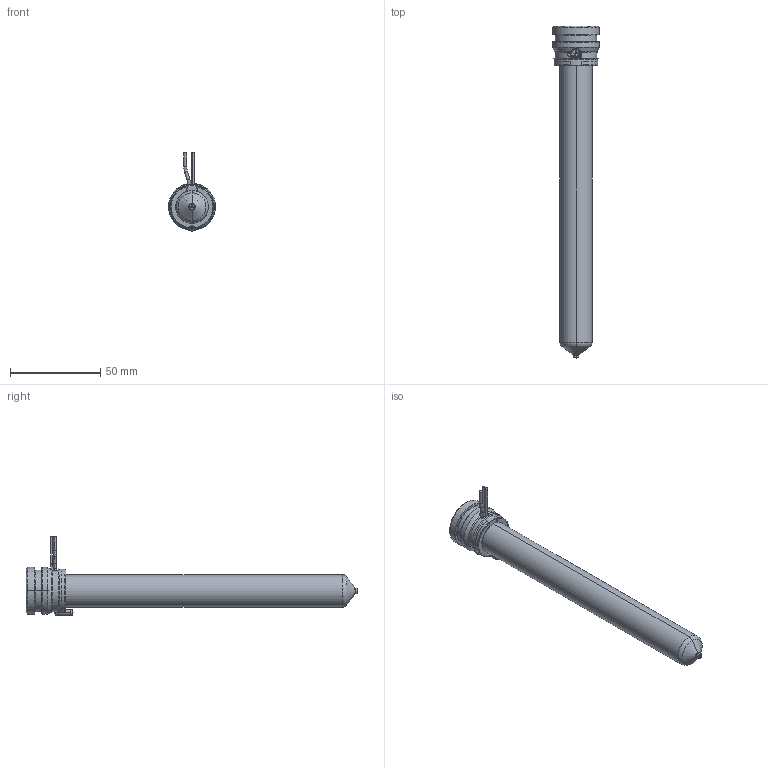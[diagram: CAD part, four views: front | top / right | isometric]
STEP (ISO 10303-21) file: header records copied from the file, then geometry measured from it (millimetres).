
FILE_DESCRIPTION((''),'2;1');
FILE_NAME('MPN-08-24-VP3-166-A','2026-02-05T12:02:21',('UPTIO'),('Thermoplay S.p.A.'),'CREO PARAMETRIC BY PTC INC, 2023494','CREO PARAMETRIC BY PTC INC, 2023494','');
FILE_SCHEMA(('CONFIG_CONTROL_DESIGN','SHAPE_APPEARANCE_LAYERS_GROUPS'));
Length unit declared in the file: millimetre
Products named in the file (1): MPN-08-24-VP3-166-A
Bounding box: 26 x 184.1 x 43.5 mm (x, y, z)
Volume: 34598.8 mm3; surface area: 45280.5 mm2
Topology: 2 solids, 3 shells, 587 faces, 1560 edges, 971 vertices
Faces by surface type: cylinder 184, plane 143, bspline 108, torus 70, cone 68, sphere 8, extrusion 6
Entity records: 31956 total; most frequent: CARTESIAN_POINT 14722, ORIENTED_EDGE 3104, DIRECTION 2714, EDGE_CURVE 1552, AXIS2_PLACEMENT_3D 1061, VERTEX_POINT 971, EDGE_LOOP 615, VECTOR 592
